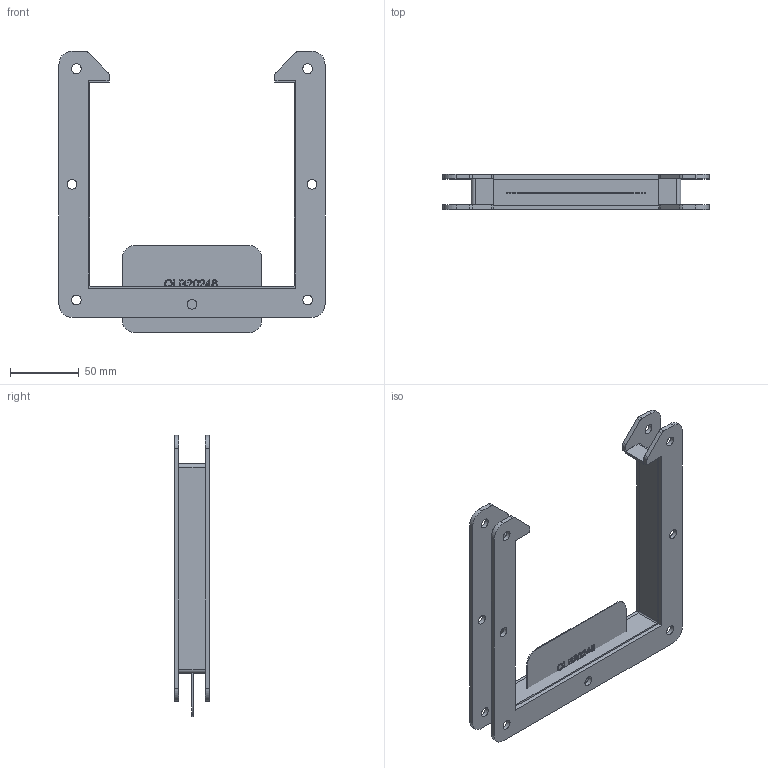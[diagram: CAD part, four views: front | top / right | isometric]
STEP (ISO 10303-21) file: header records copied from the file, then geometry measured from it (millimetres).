
FILE_DESCRIPTION(/* description */ ('Unknown'),/* implementation_level */ '2;1');
FILE_NAME(/* name */ '1485DM1',/* time_stamp */ '2020-08-31T08:46:44-04:00',/* author */ ('Unknown'),/* organization */ ('Unknown'),/* preprocessor_version */ 'ST-DEVELOPER v16.7',/* originating_system */ 'Solid Edge',/* authorisation */ 'Unknown');
FILE_SCHEMA (('AUTOMOTIVE_DESIGN {1 0 10303 214 3 1 1}'));
Length unit declared in the file: millimetre
Products named in the file (5): 1485DM1; PNT11078; COM40395; QLB20246; COM52432
Assembly tree (5 placements, depth 2):
  1485DM1
    PNT11078
    COM40395  x2
    QLB20246
    COM52432
Bounding box: 193.68 x 25.4 x 204.77 mm (x, y, z)
Volume: 94892.2 mm3; surface area: 87531.3 mm2
Topology: 4 solids, 4 shells, 163 faces, 437 edges, 296 vertices
Faces by surface type: plane 102, cylinder 42, bspline 19
Full cylindrical faces by diameter (mm): 7.137 x14
Entity records: 6519 total; most frequent: CARTESIAN_POINT 3447, ORIENTED_EDGE 652, DIRECTION 508, EDGE_CURVE 326, VERTEX_POINT 224, AXIS2_PLACEMENT_3D 173, EDGE_LOOP 170, FACE_BOUND 170
